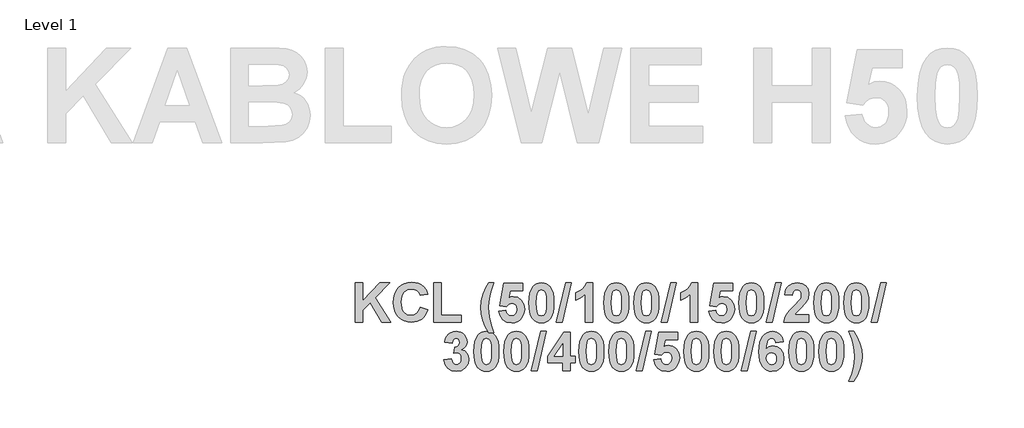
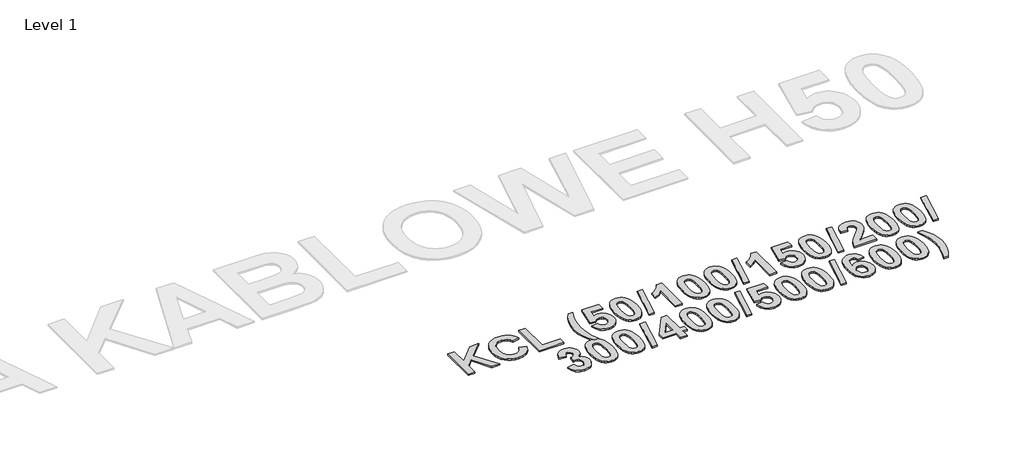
# One storey, part 23 of 42: 1 proxy.
"""IFC4 building model written with IfcOpenShell, lengths in millimetres."""

from ifc_helpers import new_model, si_unit, origin, origin_with_axes, place, context, project, spatial, polyline, outline, extrude, element, save

model = new_model("IFC4")

# Units and contexts
model_context = context("Model", 3, world=origin())
ifc_project = project(units=[si_unit("LENGTHUNIT", "METRE", prefix="MILLI")], contexts=[model_context])

# Site, building, storey
site = spatial("IfcSite", under=ifc_project)
building = spatial("IfcBuilding", under=site)
storey = spatial("IfcBuildingStorey", under=building, Name="Level 1", Elevation=0.0)

# Proxy
placement = place(None, origin())
element("IfcBuildingElementProxy", 1, Name="300mm Arial 2", ObjectType="300mm Arial 2", at=placement, inside=storey, context=model_context, shape_type="SweptSolid", body=[
    extrude(outline(polyline([(-22714.3228423, 21266.2760859), (-22714.3228423, 21521.3409359), (-22665.7390614, 21521.3409359), (-22665.7390614, 21405.0688143), (-22556.299034, 21521.3409359), (-22489.6228554, 21521.3409359), (-22586.157816, 21423.9203335), (-22485.574207, 21266.2760859), (-22542.381805, 21266.2760859), (-22617.7246216, 21391.9739671), (-22665.7390614, 21343.4534463), (-22665.7390614, 21266.2760859), (-22714.3228423, 21266.2760859)])), origin_with_axes(), (0.0, 0.0, 1.0), 10.0),
    extrude(outline(polyline([(-22293.2634074, 21363.4436478), (-22244.6796265, 21347.2490542), (-22260.0043933, 21311.4675423), (-22270.5253439, 21297.5325215), (-22282.952006, 21286.2346574), (-22313.3168691, 21271.2657288), (-22350.8933872, 21266.2760859), (-22375.2208615, 21268.4071616), (-22397.2788785, 21274.8003886), (-22417.0674384, 21285.455767), (-22434.5865411, 21300.3732968), (-22448.9228683, 21318.9875905), (-22459.1631021, 21340.7332606), (-22465.3072424, 21365.6103073), (-22467.3552891, 21393.6187305), (-22465.2894505, 21423.1533044), (-22459.0919345, 21449.192756), (-22448.7627411, 21471.7370854), (-22434.3018705, 21490.7862924), (-22416.4723978, 21505.9252326), (-22396.0373985, 21516.7387614), (-22372.9968725, 21523.2268786), (-22347.3508198, 21525.3895843), (-22324.9251032, 21523.6064394), (-22304.7134912, 21518.2570045), (-22286.7159838, 21509.3412797), (-22270.932581, 21496.8592651), (-22255.6078142, 21476.3471674), (-22244.6796265, 21448.4652645), (-22293.2634074, 21440.3679677), (-22300.7043804, 21457.1714401), (-22313.4117593, 21470.0053393), (-22330.4050121, 21478.1421737), (-22350.7036068, 21480.8544518), (-22378.1505963, 21475.9280691), (-22399.888359, 21461.1489208), (-22408.1497367, 21449.7719816), (-22414.0507209, 21435.3466947), (-22418.7715082, 21397.3510783), (-22414.1930562, 21357.275785), (-22408.4699912, 21342.2910414), (-22400.4577001, 21330.6748997), (-22379.3841689, 21315.7771388), (-22352.7911911, 21310.8112185), (-22332.7140069, 21313.9821326), (-22315.6258639, 21323.4948748), (-22302.2384386, 21339.8238963), (-22293.2634074, 21363.4436478)])), origin_with_axes(), (0.0, 0.0, 1.0), 10.0),
    extrude(outline(polyline([(-22204.1931423, 21266.2760859), (-22204.1931423, 21521.3409359), (-22155.6093614, 21521.3409359), (-22155.6093614, 21310.8112185), (-22026.0526122, 21310.8112185), (-22026.0526122, 21266.2760859), (-22204.1931423, 21266.2760859)])), origin_with_axes(), (0.0, 0.0, 1.0), 10.0),
    extrude(outline(polyline([(-21815.5228947, 21197.4490629), (-21847.912082, 21197.4490629), (-21870.5829316, 21237.1210729), (-21887.1017335, 21278.327141), (-21897.1838169, 21319.6280993), (-21900.5445114, 21359.5847798), (-21896.4326028, 21406.9824333), (-21884.0968772, 21451.7547913), (-21867.9022836, 21488.0344767), (-21847.912082, 21521.3409359), (-21815.5228947, 21521.3409359), (-21833.0854887, 21474.1014328), (-21844.1481042, 21434.4847754), (-21850.0075739, 21397.6041188), (-21851.9607304, 21358.5726177), (-21847.2794807, 21301.92317), (-21834.437674, 21246.8552256), (-21815.5228947, 21197.4490629)])), origin_with_axes(), (0.0, 0.0, 1.0), 10.0),
    extrude(outline(polyline([(-21783.1337074, 21338.0763351), (-21738.5985749, 21343.2004058), (-21734.4550363, 21328.1286795), (-21726.1995891, 21316.5678904), (-21715.0974361, 21309.2139001), (-21702.4137797, 21306.7625701), (-21688.2197877, 21309.364143), (-21676.3822356, 21317.1688617), (-21668.3877365, 21330.2083563), (-21665.7229035, 21348.5142568), (-21668.1979561, 21365.6735675), (-21675.623114, 21377.9302179), (-21687.0178452, 21385.2842082), (-21701.4016176, 21387.7355383), (-21720.2215067, 21382.6747278), (-21736.9538115, 21367.4922962), (-21779.085059, 21373.7550493), (-21750.7445201, 21517.2922875), (-21629.2850678, 21517.2922875), (-21629.2850678, 21468.7085066), (-21711.4599785, 21468.7085066), (-21721.2652989, 21422.3388302), (-21705.7823817, 21429.7877107), (-21689.9515338, 21432.2706708), (-21661.8324054, 21426.5219064), (-21638.3312665, 21409.2756131), (-21622.4371585, 21382.8566007), (-21617.1391225, 21349.589679), (-21621.5515167, 21320.6639839), (-21634.7886992, 21294.9961856), (-21648.0061129, 21280.6598583), (-21663.556244, 21270.4196245), (-21681.4390924, 21264.2754843), (-21701.6546581, 21262.2274375), (-21732.6600301, 21267.3673232), (-21757.3552039, 21282.7869802), (-21774.5698671, 21306.8890903), (-21783.1337074, 21338.0763351)])), origin_with_axes(), (0.0, 0.0, 1.0), 10.0),
    extrude(outline(polyline([(-21507.8256154, 21521.3409359), (-21490.693981, 21519.6961725), (-21475.5471333, 21514.7618822), (-21462.3850722, 21506.5380652), (-21451.2077977, 21495.0247212), (-21440.5524193, 21476.8967398), (-21432.9414348, 21453.6367802), (-21428.374844, 21425.2448425), (-21426.8526471, 21391.7209266), (-21428.3827516, 21358.2286407), (-21432.9730648, 21329.8050729), (-21440.623587, 21306.4502232), (-21451.334318, 21288.1640914), (-21462.4562399, 21276.8168053), (-21475.5787634, 21268.711601), (-21490.7018885, 21263.8484784), (-21507.8256154, 21262.2274375), (-21525.133192, 21264.0066287), (-21540.6813461, 21269.3442023), (-21554.4700779, 21278.2401583), (-21566.4993873, 21290.6944967), (-21576.2552857, 21307.7154258), (-21583.2237845, 21330.311154), (-21587.4048839, 21358.4816813), (-21588.7985836, 21392.2270076), (-21587.2684792, 21425.5532356), (-21582.6781659, 21453.8581907), (-21575.0276438, 21477.1418728), (-21564.3169128, 21495.404282), (-21553.1949909, 21506.7515681), (-21540.0724674, 21514.8567724), (-21524.9493422, 21519.7198951), (-21507.8256154, 21521.3409359)]), holes=[polyline([(-21507.8256154, 21476.8058034), (-21524.020209, 21471.4603223), (-21530.3462222, 21463.9877192), (-21535.0274719, 21452.2608724), (-21538.91797, 21428.1113172), (-21540.2148027, 21391.7209266), (-21539.0603053, 21355.8128945), (-21535.5968131, 21333.2369351), (-21530.3699447, 21319.9839375), (-21523.9253188, 21312.044791), (-21507.8256154, 21306.7625701), (-21491.6310217, 21312.1080512), (-21485.3050086, 21319.5806542), (-21480.6237589, 21331.3075011), (-21476.7332608, 21355.330536), (-21475.4364281, 21391.7209266), (-21476.5909255, 21427.5894211), (-21480.0544177, 21450.173288), (-21485.281286, 21463.4658232), (-21491.7259119, 21471.4603223), (-21507.8256154, 21476.8058034)])]), origin_with_axes(), (0.0, 0.0, 1.0), 10.0),
    extrude(outline(polyline([(-21411.5436953, 21266.2760859), (-21350.8139691, 21521.3409359), (-21313.4904916, 21521.3409359), (-21374.2202178, 21266.2760859), (-21411.5436953, 21266.2760859)])), origin_with_axes(), (0.0, 0.0, 1.0), 10.0),
    extrude(outline(polyline([(-21175.8364455, 21266.2760859), (-21224.4202265, 21266.2760859), (-21224.4202265, 21448.5917848), (-21252.4760948, 21424.7110851), (-21285.1499527, 21407.9787804), (-21285.1499527, 21456.5625613), (-21265.6816472, 21465.6482977), (-21244.6002084, 21480.3800008), (-21226.1440651, 21499.3975778), (-21214.551646, 21521.3409359), (-21175.8364455, 21521.3409359), (-21175.8364455, 21266.2760859)])), origin_with_axes(), (0.0, 0.0, 1.0), 10.0),
    extrude(outline(polyline([(-21021.9878059, 21521.3409359), (-21004.8561715, 21519.6961725), (-20989.7093238, 21514.7618822), (-20976.5472627, 21506.5380652), (-20965.3699882, 21495.0247212), (-20954.7146098, 21476.8967398), (-20947.1036253, 21453.6367802), (-20942.5370345, 21425.2448425), (-20941.0148376, 21391.7209266), (-20942.5449421, 21358.2286407), (-20947.1352553, 21329.8050729), (-20954.7857775, 21306.4502232), (-20965.4965085, 21288.1640914), (-20976.6184304, 21276.8168053), (-20989.7409539, 21268.711601), (-21004.864079, 21263.8484784), (-21021.9878059, 21262.2274375), (-21039.2953825, 21264.0066287), (-21054.8435366, 21269.3442023), (-21068.6322684, 21278.2401583), (-21080.6615778, 21290.6944967), (-21090.4174762, 21307.7154258), (-21097.385975, 21330.311154), (-21101.5670744, 21358.4816813), (-21102.9607741, 21392.2270076), (-21101.4306697, 21425.5532356), (-21096.8403564, 21453.8581907), (-21089.1898343, 21477.1418728), (-21078.4791033, 21495.404282), (-21067.3571814, 21506.7515681), (-21054.2346579, 21514.8567724), (-21039.1115327, 21519.7198951), (-21021.9878059, 21521.3409359)]), holes=[polyline([(-21021.9878059, 21476.8058034), (-21038.1823995, 21471.4603223), (-21044.5084127, 21463.9877192), (-21049.1896624, 21452.2608724), (-21053.0801605, 21428.1113172), (-21054.3769932, 21391.7209266), (-21053.2224958, 21355.8128945), (-21049.7590036, 21333.2369351), (-21044.5321352, 21319.9839375), (-21038.0875093, 21312.044791), (-21021.9878059, 21306.7625701), (-21005.7932122, 21312.1080512), (-20999.4671991, 21319.5806542), (-20994.7859494, 21331.3075011), (-20990.8954513, 21355.330536), (-20989.5986186, 21391.7209266), (-20990.753116, 21427.5894211), (-20994.2166082, 21450.173288), (-20999.4434765, 21463.4658232), (-21005.8881024, 21471.4603223), (-21021.9878059, 21476.8058034)])]), origin_with_axes(), (0.0, 0.0, 1.0), 10.0),
    extrude(outline(polyline([(-20827.6526821, 21521.3409359), (-20810.5210477, 21519.6961725), (-20795.3742, 21514.7618822), (-20782.2121389, 21506.5380652), (-20771.0348644, 21495.0247212), (-20760.379486, 21476.8967398), (-20752.7685015, 21453.6367802), (-20748.2019107, 21425.2448425), (-20746.6797138, 21391.7209266), (-20748.2098182, 21358.2286407), (-20752.8001315, 21329.8050729), (-20760.4506537, 21306.4502232), (-20771.1613847, 21288.1640914), (-20782.2833065, 21276.8168053), (-20795.4058301, 21268.711601), (-20810.5289552, 21263.8484784), (-20827.6526821, 21262.2274375), (-20844.9602587, 21264.0066287), (-20860.5084128, 21269.3442023), (-20874.2971446, 21278.2401583), (-20886.326454, 21290.6944967), (-20896.0823524, 21307.7154258), (-20903.0508512, 21330.311154), (-20907.2319506, 21358.4816813), (-20908.6256503, 21392.2270076), (-20907.0955459, 21425.5532356), (-20902.5052326, 21453.8581907), (-20894.8547105, 21477.1418728), (-20884.1439795, 21495.404282), (-20873.0220576, 21506.7515681), (-20859.8995341, 21514.8567724), (-20844.7764089, 21519.7198951), (-20827.6526821, 21521.3409359)]), holes=[polyline([(-20827.6526821, 21476.8058034), (-20843.8472757, 21471.4603223), (-20850.1732889, 21463.9877192), (-20854.8545386, 21452.2608724), (-20858.7450367, 21428.1113172), (-20860.0418694, 21391.7209266), (-20858.887372, 21355.8128945), (-20855.4238798, 21333.2369351), (-20850.1970114, 21319.9839375), (-20843.7523855, 21312.044791), (-20827.6526821, 21306.7625701), (-20811.4580884, 21312.1080512), (-20805.1320753, 21319.5806542), (-20800.4508255, 21331.3075011), (-20796.5603275, 21355.330536), (-20795.2634948, 21391.7209266), (-20796.4179922, 21427.5894211), (-20799.8814844, 21450.173288), (-20805.1083527, 21463.4658232), (-20811.5529786, 21471.4603223), (-20827.6526821, 21476.8058034)])]), origin_with_axes(), (0.0, 0.0, 1.0), 10.0),
    extrude(outline(polyline([(-20731.370762, 21266.2760859), (-20670.6410358, 21521.3409359), (-20633.3175583, 21521.3409359), (-20694.0472845, 21266.2760859), (-20731.370762, 21266.2760859)])), origin_with_axes(), (0.0, 0.0, 1.0), 10.0),
    extrude(outline(polyline([(-20495.6635122, 21266.2760859), (-20544.2472932, 21266.2760859), (-20544.2472932, 21448.5917848), (-20572.3031615, 21424.7110851), (-20604.9770194, 21407.9787804), (-20604.9770194, 21456.5625613), (-20585.5087139, 21465.6482977), (-20564.4272751, 21480.3800008), (-20545.9711318, 21499.3975778), (-20534.3787127, 21521.3409359), (-20495.6635122, 21521.3409359), (-20495.6635122, 21266.2760859)])), origin_with_axes(), (0.0, 0.0, 1.0), 10.0),
    extrude(outline(polyline([(-20422.7878408, 21338.0763351), (-20378.2527083, 21343.2004058), (-20374.1091697, 21328.1286795), (-20365.8537225, 21316.5678904), (-20354.7515694, 21309.2139001), (-20342.0679131, 21306.7625701), (-20327.8739211, 21309.364143), (-20316.036369, 21317.1688617), (-20308.0418699, 21330.2083563), (-20305.3770369, 21348.5142568), (-20307.8520895, 21365.6735675), (-20315.2772474, 21377.9302179), (-20326.6719786, 21385.2842082), (-20341.055751, 21387.7355383), (-20359.8756401, 21382.6747278), (-20376.6079449, 21367.4922962), (-20418.7391924, 21373.7550493), (-20390.3986535, 21517.2922875), (-20268.9392011, 21517.2922875), (-20268.9392011, 21468.7085066), (-20351.1141119, 21468.7085066), (-20360.9194323, 21422.3388302), (-20345.4365151, 21429.7877107), (-20329.6056672, 21432.2706708), (-20301.4865388, 21426.5219064), (-20277.9853999, 21409.2756131), (-20262.0912919, 21382.8566007), (-20256.7932559, 21349.589679), (-20261.2056501, 21320.6639839), (-20274.4428326, 21294.9961856), (-20287.6602463, 21280.6598583), (-20303.2103774, 21270.4196245), (-20321.0932258, 21264.2754843), (-20341.3087915, 21262.2274375), (-20372.3141634, 21267.3673232), (-20397.0093373, 21282.7869802), (-20414.2240005, 21306.8890903), (-20422.7878408, 21338.0763351)])), origin_with_axes(), (0.0, 0.0, 1.0), 10.0),
    extrude(outline(polyline([(-20147.4797488, 21521.3409359), (-20130.3481144, 21519.6961725), (-20115.2012667, 21514.7618822), (-20102.0392056, 21506.5380652), (-20090.8619311, 21495.0247212), (-20080.2065527, 21476.8967398), (-20072.5955682, 21453.6367802), (-20068.0289774, 21425.2448425), (-20066.5067805, 21391.7209266), (-20068.0368849, 21358.2286407), (-20072.6271982, 21329.8050729), (-20080.2777204, 21306.4502232), (-20090.9884514, 21288.1640914), (-20102.1103732, 21276.8168053), (-20115.2328968, 21268.711601), (-20130.3560219, 21263.8484784), (-20147.4797488, 21262.2274375), (-20164.7873254, 21264.0066287), (-20180.3354795, 21269.3442023), (-20194.1242113, 21278.2401583), (-20206.1535207, 21290.6944967), (-20215.9094191, 21307.7154258), (-20222.8779179, 21330.311154), (-20227.0590172, 21358.4816813), (-20228.452717, 21392.2270076), (-20226.9226126, 21425.5532356), (-20222.3322993, 21453.8581907), (-20214.6817772, 21477.1418728), (-20203.9710461, 21495.404282), (-20192.8491243, 21506.7515681), (-20179.7266008, 21514.8567724), (-20164.6034756, 21519.7198951), (-20147.4797488, 21521.3409359)]), holes=[polyline([(-20147.4797488, 21476.8058034), (-20163.6743424, 21471.4603223), (-20170.0003556, 21463.9877192), (-20174.6816053, 21452.2608724), (-20178.5721034, 21428.1113172), (-20179.8689361, 21391.7209266), (-20178.7144387, 21355.8128945), (-20175.2509465, 21333.2369351), (-20170.0240781, 21319.9839375), (-20163.5794522, 21312.044791), (-20147.4797488, 21306.7625701), (-20131.2851551, 21312.1080512), (-20124.959142, 21319.5806542), (-20120.2778922, 21331.3075011), (-20116.3873942, 21355.330536), (-20115.0905615, 21391.7209266), (-20116.2450589, 21427.5894211), (-20119.7085511, 21450.173288), (-20124.9354194, 21463.4658232), (-20131.3800453, 21471.4603223), (-20147.4797488, 21476.8058034)])]), origin_with_axes(), (0.0, 0.0, 1.0), 10.0),
    extrude(outline(polyline([(-20051.1978287, 21266.2760859), (-19990.4681025, 21521.3409359), (-19953.144625, 21521.3409359), (-20013.8743512, 21266.2760859), (-20051.1978287, 21266.2760859)])), origin_with_axes(), (0.0, 0.0, 1.0), 10.0),
    extrude(outline(polyline([(-19775.0040948, 21314.8598669), (-19775.0040948, 21266.2760859), (-19936.9500313, 21266.2760859), (-19931.7785156, 21290.7814793), (-19921.4512991, 21313.942595), (-19902.2676642, 21340.1243819), (-19870.5268933, 21373.6917891), (-19832.9503752, 21414.4313138), (-19825.9285006, 21429.1392943), (-19823.5878758, 21443.6574945), (-19825.5568474, 21457.8040414), (-19831.4637621, 21468.2340556), (-19840.8341691, 21474.6628664), (-19853.1936173, 21476.8058034), (-19865.4660828, 21474.6944965), (-19874.9551025, 21468.3605758), (-19881.3443758, 21457.13981), (-19884.317602, 21440.3679677), (-19932.9013829, 21444.7961769), (-19924.298005, 21479.9450874), (-19916.6751592, 21493.1842468), (-19906.8382087, 21503.5332089), (-19882.2142026, 21516.8890042), (-19852.118195, 21521.3409359), (-19819.9820483, 21516.3512931), (-19795.5636375, 21501.3823644), (-19780.1439805, 21478.9961854), (-19775.0040948, 21451.7547913), (-19780.6342465, 21419.6186446), (-19798.4736036, 21387.6722782), (-19828.6803163, 21355.7891719), (-19856.419884, 21328.1444945), (-19865.5293429, 21314.8598669), (-19775.0040948, 21314.8598669)])), origin_with_axes(), (0.0, 0.0, 1.0), 10.0),
    extrude(outline(polyline([(-19661.6419393, 21521.3409359), (-19644.5103049, 21519.6961725), (-19629.3634572, 21514.7618822), (-19616.2013961, 21506.5380652), (-19605.0241216, 21495.0247212), (-19594.3687432, 21476.8967398), (-19586.7577587, 21453.6367802), (-19582.1911679, 21425.2448425), (-19580.668971, 21391.7209266), (-19582.1990754, 21358.2286407), (-19586.7893887, 21329.8050729), (-19594.4399109, 21306.4502232), (-19605.1506419, 21288.1640914), (-19616.2725637, 21276.8168053), (-19629.3950873, 21268.711601), (-19644.5182124, 21263.8484784), (-19661.6419393, 21262.2274375), (-19678.9495159, 21264.0066287), (-19694.49767, 21269.3442023), (-19708.2864018, 21278.2401583), (-19720.3157112, 21290.6944967), (-19730.0716096, 21307.7154258), (-19737.0401084, 21330.311154), (-19741.2212077, 21358.4816813), (-19742.6149075, 21392.2270076), (-19741.0848031, 21425.5532356), (-19736.4944898, 21453.8581907), (-19728.8439676, 21477.1418728), (-19718.1332366, 21495.404282), (-19707.0113148, 21506.7515681), (-19693.8887913, 21514.8567724), (-19678.7656661, 21519.7198951), (-19661.6419393, 21521.3409359)]), holes=[polyline([(-19661.6419393, 21476.8058034), (-19677.8365329, 21471.4603223), (-19684.1625461, 21463.9877192), (-19688.8437958, 21452.2608724), (-19692.7342939, 21428.1113172), (-19694.0311266, 21391.7209266), (-19692.8766292, 21355.8128945), (-19689.413137, 21333.2369351), (-19684.1862686, 21319.9839375), (-19677.7416427, 21312.044791), (-19661.6419393, 21306.7625701), (-19645.4473456, 21312.1080512), (-19639.1213325, 21319.5806542), (-19634.4400827, 21331.3075011), (-19630.5495847, 21355.330536), (-19629.252752, 21391.7209266), (-19630.4072494, 21427.5894211), (-19633.8707416, 21450.173288), (-19639.0976099, 21463.4658232), (-19645.5422358, 21471.4603223), (-19661.6419393, 21476.8058034)])]), origin_with_axes(), (0.0, 0.0, 1.0), 10.0),
    extrude(outline(polyline([(-19467.3068155, 21521.3409359), (-19450.1751811, 21519.6961725), (-19435.0283334, 21514.7618822), (-19421.8662723, 21506.5380652), (-19410.6889978, 21495.0247212), (-19400.0336194, 21476.8967398), (-19392.4226349, 21453.6367802), (-19387.8560441, 21425.2448425), (-19386.3338472, 21391.7209266), (-19387.8639516, 21358.2286407), (-19392.4542649, 21329.8050729), (-19400.1047871, 21306.4502232), (-19410.8155181, 21288.1640914), (-19421.9374399, 21276.8168053), (-19435.0599635, 21268.711601), (-19450.1830886, 21263.8484784), (-19467.3068155, 21262.2274375), (-19484.614392, 21264.0066287), (-19500.1625462, 21269.3442023), (-19513.951278, 21278.2401583), (-19525.9805874, 21290.6944967), (-19535.7364858, 21307.7154258), (-19542.7049846, 21330.311154), (-19546.8860839, 21358.4816813), (-19548.2797837, 21392.2270076), (-19546.7496793, 21425.5532356), (-19542.159366, 21453.8581907), (-19534.5088438, 21477.1418728), (-19523.7981128, 21495.404282), (-19512.676191, 21506.7515681), (-19499.5536675, 21514.8567724), (-19484.4305423, 21519.7198951), (-19467.3068155, 21521.3409359)]), holes=[polyline([(-19467.3068155, 21476.8058034), (-19483.5014091, 21471.4603223), (-19489.8274223, 21463.9877192), (-19494.508672, 21452.2608724), (-19498.3991701, 21428.1113172), (-19499.6960028, 21391.7209266), (-19498.5415054, 21355.8128945), (-19495.0780132, 21333.2369351), (-19489.8511448, 21319.9839375), (-19483.4065189, 21312.044791), (-19467.3068155, 21306.7625701), (-19451.1122218, 21312.1080512), (-19444.7862087, 21319.5806542), (-19440.1049589, 21331.3075011), (-19436.2144609, 21355.330536), (-19434.9176282, 21391.7209266), (-19436.0721256, 21427.5894211), (-19439.5356178, 21450.173288), (-19444.7624861, 21463.4658232), (-19451.207112, 21471.4603223), (-19467.3068155, 21476.8058034)])]), origin_with_axes(), (0.0, 0.0, 1.0), 10.0),
    extrude(outline(polyline([(-19371.0248954, 21266.2760859), (-19310.2951692, 21521.3409359), (-19272.9716917, 21521.3409359), (-19333.7014178, 21266.2760859), (-19371.0248954, 21266.2760859)])), origin_with_axes(), (0.0, 0.0, 1.0), 10.0),
    extrude(outline(polyline([(-22139.4147677, 21022.7918795), (-22090.8309868, 21028.4220312), (-22087.082824, 21012.7967787), (-22079.886984, 21001.3466949), (-22070.0342186, 20994.3248203), (-22058.3152792, 20991.9841955), (-22045.7423281, 20994.6648435), (-22035.3518515, 21002.7067877), (-22028.377422, 21015.2876464), (-22026.0526122, 21031.5850377), (-22028.1797341, 21047.0046948), (-22034.5610999, 21058.8501544), (-22044.010582, 21066.3939251), (-22055.342053, 21068.9085153), (-22074.6363931, 21065.3026878), (-22070.3979643, 21105.346351), (-22056.5677181, 21107.0860046), (-22046.4540046, 21113.3171276), (-22040.2624192, 21123.1857081), (-22038.1985574, 21135.8377344), (-22039.7405231, 21146.5840492), (-22044.3664202, 21154.910664), (-22051.5543527, 21160.2482376), (-22060.7824243, 21162.0274288), (-22070.1686463, 21159.963567), (-22078.0840703, 21153.7719816), (-22083.8486498, 21143.610823), (-22086.7823384, 21129.6382415), (-22135.3661193, 21136.9131566), (-22129.8071353, 21158.6509193), (-22121.9866015, 21175.5334668), (-22111.2640092, 21188.4464412), (-22096.9988496, 21198.2754841), (-22080.0055968, 21204.490792), (-22061.098725, 21206.5625613), (-22030.4491913, 21200.8217044), (-22017.6627372, 21193.6456332), (-22006.5684917, 21183.5991336), (-21993.8532053, 21163.577302), (-21989.6147765, 21141.0883253), (-21991.8881874, 21125.1428184), (-21998.7084204, 21110.8974275), (-22010.0754752, 21098.3521527), (-22025.989352, 21087.5069939), (-22006.1256708, 21079.9553157), (-21990.6901987, 21066.6627806), (-21980.7741731, 21048.799701), (-21977.4688312, 21027.5363893), (-21983.3283009, 20996.7682429), (-22000.9067099, 20970.8869416), (-22013.3432564, 20960.6328697), (-22027.2150171, 20953.3085326), (-22059.2641812, 20947.4490629), (-22089.5262466, 20952.6601162), (-22114.1423452, 20968.2932762), (-22131.3570085, 20992.3400337), (-22139.4147677, 21022.7918795)])), origin_with_axes(), (0.0, 0.0, 1.0), 10.0),
    extrude(outline(polyline([(-21864.1066757, 21206.5625613), (-21846.9750413, 21204.9177979), (-21831.8281936, 21199.9835076), (-21818.6661325, 21191.7596906), (-21807.488858, 21180.2463466), (-21796.8334796, 21162.1183652), (-21789.2224951, 21138.8584056), (-21784.6559043, 21110.4664679), (-21783.1337074, 21076.942552), (-21784.6638119, 21043.4502661), (-21789.2541251, 21015.0266983), (-21796.9046473, 20991.6718486), (-21807.6153783, 20973.3857168), (-21818.7373002, 20962.0384307), (-21831.8598237, 20953.9332264), (-21846.9829488, 20949.0701038), (-21864.1066757, 20947.4490629), (-21881.4142523, 20949.2282541), (-21896.9624064, 20954.5658277), (-21910.7511382, 20963.4617837), (-21922.7804476, 20975.9161221), (-21932.536346, 20992.9370512), (-21939.5048448, 21015.5327794), (-21943.6859442, 21043.7033067), (-21945.0796439, 21077.448633), (-21943.5495395, 21110.774861), (-21938.9592262, 21139.0798161), (-21931.3087041, 21162.3634982), (-21920.5979731, 21180.6259074), (-21909.4760512, 21191.9731935), (-21896.3535277, 21200.0783978), (-21881.2304025, 21204.9415205), (-21864.1066757, 21206.5625613)]), holes=[polyline([(-21864.1066757, 21162.0274288), (-21880.3012693, 21156.6819477), (-21886.6272825, 21149.2093446), (-21891.3085322, 21137.4824978), (-21895.1990303, 21113.3329426), (-21896.495863, 21076.942552), (-21895.3413656, 21041.0345199), (-21891.8778734, 21018.4585605), (-21886.651005, 21005.2055629), (-21880.2063791, 20997.2664164), (-21864.1066757, 20991.9841955), (-21847.912082, 20997.3296766), (-21841.5860689, 21004.8022796), (-21836.9048192, 21016.5291265), (-21833.0143211, 21040.5521614), (-21831.7174884, 21076.942552), (-21832.8719858, 21112.8110465), (-21836.335478, 21135.3949134), (-21841.5623463, 21148.6874486), (-21848.0069722, 21156.6819477), (-21864.1066757, 21162.0274288)])]), origin_with_axes(), (0.0, 0.0, 1.0), 10.0),
    extrude(outline(polyline([(-21669.7715519, 21206.5625613), (-21652.6399175, 21204.9177979), (-21637.4930698, 21199.9835076), (-21624.3310087, 21191.7596906), (-21613.1537342, 21180.2463466), (-21602.4983558, 21162.1183652), (-21594.8873713, 21138.8584056), (-21590.3207805, 21110.4664679), (-21588.7985836, 21076.942552), (-21590.3286881, 21043.4502661), (-21594.9190013, 21015.0266983), (-21602.5695235, 20991.6718486), (-21613.2802545, 20973.3857168), (-21624.4021764, 20962.0384307), (-21637.5246999, 20953.9332264), (-21652.647825, 20949.0701038), (-21669.7715519, 20947.4490629), (-21687.0791285, 20949.2282541), (-21702.6272826, 20954.5658277), (-21716.4160144, 20963.4617837), (-21728.4453238, 20975.9161221), (-21738.2012222, 20992.9370512), (-21745.169721, 21015.5327794), (-21749.3508204, 21043.7033067), (-21750.7445201, 21077.448633), (-21749.2144157, 21110.774861), (-21744.6241024, 21139.0798161), (-21736.9735803, 21162.3634982), (-21726.2628493, 21180.6259074), (-21715.1409274, 21191.9731935), (-21702.0184039, 21200.0783978), (-21686.8952787, 21204.9415205), (-21669.7715519, 21206.5625613)]), holes=[polyline([(-21669.7715519, 21162.0274288), (-21685.9661455, 21156.6819477), (-21692.2921587, 21149.2093446), (-21696.9734084, 21137.4824978), (-21700.8639065, 21113.3329426), (-21702.1607392, 21076.942552), (-21701.0062418, 21041.0345199), (-21697.5427496, 21018.4585605), (-21692.3158812, 21005.2055629), (-21685.8712553, 20997.2664164), (-21669.7715519, 20991.9841955), (-21653.5769582, 20997.3296766), (-21647.2509451, 21004.8022796), (-21642.5696954, 21016.5291265), (-21638.6791973, 21040.5521614), (-21637.3823646, 21076.942552), (-21638.536862, 21112.8110465), (-21642.0003542, 21135.3949134), (-21647.2272225, 21148.6874486), (-21653.6718484, 21156.6819477), (-21669.7715519, 21162.0274288)])]), origin_with_axes(), (0.0, 0.0, 1.0), 10.0),
    extrude(outline(polyline([(-21573.4896318, 20951.4977113), (-21512.7599056, 21206.5625613), (-21475.4364281, 21206.5625613), (-21536.1661543, 20951.4977113), (-21573.4896318, 20951.4977113)])), origin_with_axes(), (0.0, 0.0, 1.0), 10.0),
    extrude(outline(polyline([(-21370.1715693, 20951.4977113), (-21370.1715693, 21004.1301407), (-21467.3391313, 21004.1301407), (-21467.3391313, 21044.4268444), (-21363.7190359, 21202.5139129), (-21321.5877884, 21202.5139129), (-21321.5877884, 21044.6166248), (-21289.1986011, 21044.6166248), (-21289.1986011, 21004.1301407), (-21321.5877884, 21004.1301407), (-21321.5877884, 20951.4977113), (-21370.1715693, 20951.4977113)]), holes=[polyline([(-21370.1715693, 21044.6166248), (-21370.1715693, 21127.487397), (-21424.4487621, 21044.6166248), (-21370.1715693, 21044.6166248)])]), origin_with_axes(), (0.0, 0.0, 1.0), 10.0),
    extrude(outline(polyline([(-21183.9337424, 21206.5625613), (-21166.802108, 21204.9177979), (-21151.6552603, 21199.9835076), (-21138.4931992, 21191.7596906), (-21127.3159247, 21180.2463466), (-21116.6605463, 21162.1183652), (-21109.0495618, 21138.8584056), (-21104.482971, 21110.4664679), (-21102.9607741, 21076.942552), (-21104.4908786, 21043.4502661), (-21109.0811918, 21015.0266983), (-21116.731714, 20991.6718486), (-21127.442445, 20973.3857168), (-21138.5643669, 20962.0384307), (-21151.6868904, 20953.9332264), (-21166.8100155, 20949.0701038), (-21183.9337424, 20947.4490629), (-21201.241319, 20949.2282541), (-21216.7894731, 20954.5658277), (-21230.5782049, 20963.4617837), (-21242.6075143, 20975.9161221), (-21252.3634127, 20992.9370512), (-21259.3319115, 21015.5327794), (-21263.5130109, 21043.7033067), (-21264.9067106, 21077.448633), (-21263.3766062, 21110.774861), (-21258.7862929, 21139.0798161), (-21251.1357708, 21162.3634982), (-21240.4250398, 21180.6259074), (-21229.3031179, 21191.9731935), (-21216.1805944, 21200.0783978), (-21201.0574692, 21204.9415205), (-21183.9337424, 21206.5625613)]), holes=[polyline([(-21183.9337424, 21162.0274288), (-21200.128336, 21156.6819477), (-21206.4543492, 21149.2093446), (-21211.1355989, 21137.4824978), (-21215.026097, 21113.3329426), (-21216.3229297, 21076.942552), (-21215.1684323, 21041.0345199), (-21211.7049401, 21018.4585605), (-21206.4780717, 21005.2055629), (-21200.0334458, 20997.2664164), (-21183.9337424, 20991.9841955), (-21167.7391487, 20997.3296766), (-21161.4131356, 21004.8022796), (-21156.7318859, 21016.5291265), (-21152.8413878, 21040.5521614), (-21151.5445551, 21076.942552), (-21152.6990525, 21112.8110465), (-21156.1625447, 21135.3949134), (-21161.389413, 21148.6874486), (-21167.8340389, 21156.6819477), (-21183.9337424, 21162.0274288)])]), origin_with_axes(), (0.0, 0.0, 1.0), 10.0),
    extrude(outline(polyline([(-20989.5986186, 21206.5625613), (-20972.4669842, 21204.9177979), (-20957.3201365, 21199.9835076), (-20944.1580754, 21191.7596906), (-20932.9808009, 21180.2463466), (-20922.3254225, 21162.1183652), (-20914.714438, 21138.8584056), (-20910.1478472, 21110.4664679), (-20908.6256503, 21076.942552), (-20910.1557548, 21043.4502661), (-20914.746068, 21015.0266983), (-20922.3965902, 20991.6718486), (-20933.1073212, 20973.3857168), (-20944.2292431, 20962.0384307), (-20957.3517666, 20953.9332264), (-20972.4748917, 20949.0701038), (-20989.5986186, 20947.4490629), (-21006.9061952, 20949.2282541), (-21022.4543493, 20954.5658277), (-21036.2430811, 20963.4617837), (-21048.2723905, 20975.9161221), (-21058.0282889, 20992.9370512), (-21064.9967877, 21015.5327794), (-21069.1778871, 21043.7033067), (-21070.5715868, 21077.448633), (-21069.0414824, 21110.774861), (-21064.4511691, 21139.0798161), (-21056.800647, 21162.3634982), (-21046.089916, 21180.6259074), (-21034.9679941, 21191.9731935), (-21021.8454706, 21200.0783978), (-21006.7223454, 21204.9415205), (-20989.5986186, 21206.5625613)]), holes=[polyline([(-20989.5986186, 21162.0274288), (-21005.7932122, 21156.6819477), (-21012.1192254, 21149.2093446), (-21016.8004751, 21137.4824978), (-21020.6909732, 21113.3329426), (-21021.9878059, 21076.942552), (-21020.8333085, 21041.0345199), (-21017.3698163, 21018.4585605), (-21012.1429479, 21005.2055629), (-21005.698322, 20997.2664164), (-20989.5986186, 20991.9841955), (-20973.4040249, 20997.3296766), (-20967.0780118, 21004.8022796), (-20962.3967621, 21016.5291265), (-20958.506264, 21040.5521614), (-20957.2094313, 21076.942552), (-20958.3639287, 21112.8110465), (-20961.8274209, 21135.3949134), (-20967.0542892, 21148.6874486), (-20973.4989151, 21156.6819477), (-20989.5986186, 21162.0274288)])]), origin_with_axes(), (0.0, 0.0, 1.0), 10.0),
    extrude(outline(polyline([(-20893.3166985, 20951.4977113), (-20832.5869723, 21206.5625613), (-20795.2634948, 21206.5625613), (-20855.993221, 20951.4977113), (-20893.3166985, 20951.4977113)])), origin_with_axes(), (0.0, 0.0, 1.0), 10.0),
    extrude(outline(polyline([(-20779.0689011, 21023.2979605), (-20734.5337686, 21028.4220312), (-20730.39023, 21013.3503049), (-20722.1347828, 21001.7895158), (-20711.0326298, 20994.4355255), (-20698.3489734, 20991.9841955), (-20684.1549814, 20994.5857684), (-20672.3174293, 21002.3904871), (-20664.3229302, 21015.4299817), (-20661.6580972, 21033.7358822), (-20664.1331498, 21050.8951929), (-20671.5583077, 21063.1518433), (-20682.9530389, 21070.5058336), (-20697.3368113, 21072.9571637), (-20716.1567004, 21067.8963532), (-20732.8890052, 21052.7139216), (-20775.0202527, 21058.9766747), (-20746.6797138, 21202.5139129), (-20625.2202614, 21202.5139129), (-20625.2202614, 21153.930132), (-20707.3951722, 21153.930132), (-20717.2004926, 21107.5604556), (-20701.7175754, 21115.0093361), (-20685.8867275, 21117.4922962), (-20657.7675991, 21111.7435318), (-20634.2664602, 21094.4972385), (-20618.3723522, 21068.0782261), (-20613.0743162, 21034.8113044), (-20617.4867104, 21005.8856093), (-20630.7238929, 20980.217811), (-20643.9413066, 20965.8814837), (-20659.4914377, 20955.6412499), (-20677.3742861, 20949.4971097), (-20697.5898518, 20947.4490629), (-20728.5952237, 20952.5889486), (-20753.2903976, 20968.0086056), (-20770.5050608, 20992.1107157), (-20779.0689011, 21023.2979605)])), origin_with_axes(), (0.0, 0.0, 1.0), 10.0),
    extrude(outline(polyline([(-20503.7608091, 21206.5625613), (-20486.6291747, 21204.9177979), (-20471.482327, 21199.9835076), (-20458.3202659, 21191.7596906), (-20447.1429914, 21180.2463466), (-20436.487613, 21162.1183652), (-20428.8766285, 21138.8584056), (-20424.3100377, 21110.4664679), (-20422.7878408, 21076.942552), (-20424.3179452, 21043.4502661), (-20428.9082585, 21015.0266983), (-20436.5587807, 20991.6718486), (-20447.2695117, 20973.3857168), (-20458.3914335, 20962.0384307), (-20471.5139571, 20953.9332264), (-20486.6370822, 20949.0701038), (-20503.7608091, 20947.4490629), (-20521.0683857, 20949.2282541), (-20536.6165398, 20954.5658277), (-20550.4052716, 20963.4617837), (-20562.434581, 20975.9161221), (-20572.1904794, 20992.9370512), (-20579.1589782, 21015.5327794), (-20583.3400775, 21043.7033067), (-20584.7337773, 21077.448633), (-20583.2036729, 21110.774861), (-20578.6133596, 21139.0798161), (-20570.9628375, 21162.3634982), (-20560.2521064, 21180.6259074), (-20549.1301846, 21191.9731935), (-20536.0076611, 21200.0783978), (-20520.8845359, 21204.9415205), (-20503.7608091, 21206.5625613)]), holes=[polyline([(-20503.7608091, 21162.0274288), (-20519.9554027, 21156.6819477), (-20526.2814159, 21149.2093446), (-20530.9626656, 21137.4824978), (-20534.8531637, 21113.3329426), (-20536.1499964, 21076.942552), (-20534.995499, 21041.0345199), (-20531.5320068, 21018.4585605), (-20526.3051384, 21005.2055629), (-20519.8605125, 20997.2664164), (-20503.7608091, 20991.9841955), (-20487.5662154, 20997.3296766), (-20481.2402023, 21004.8022796), (-20476.5589525, 21016.5291265), (-20472.6684545, 21040.5521614), (-20471.3716218, 21076.942552), (-20472.5261192, 21112.8110465), (-20475.9896114, 21135.3949134), (-20481.2164797, 21148.6874486), (-20487.6611056, 21156.6819477), (-20503.7608091, 21162.0274288)])]), origin_with_axes(), (0.0, 0.0, 1.0), 10.0),
    extrude(outline(polyline([(-20309.4256853, 21206.5625613), (-20292.2940509, 21204.9177979), (-20277.1472032, 21199.9835076), (-20263.9851421, 21191.7596906), (-20252.8078676, 21180.2463466), (-20242.1524892, 21162.1183652), (-20234.5415047, 21138.8584056), (-20229.9749139, 21110.4664679), (-20228.452717, 21076.942552), (-20229.9828214, 21043.4502661), (-20234.5731347, 21015.0266983), (-20242.2236569, 20991.6718486), (-20252.9343879, 20973.3857168), (-20264.0563097, 20962.0384307), (-20277.1788333, 20953.9332264), (-20292.3019584, 20949.0701038), (-20309.4256853, 20947.4490629), (-20326.7332619, 20949.2282541), (-20342.281416, 20954.5658277), (-20356.0701478, 20963.4617837), (-20368.0994572, 20975.9161221), (-20377.8553556, 20992.9370512), (-20384.8238544, 21015.5327794), (-20389.0049537, 21043.7033067), (-20390.3986535, 21077.448633), (-20388.8685491, 21110.774861), (-20384.2782358, 21139.0798161), (-20376.6277137, 21162.3634982), (-20365.9169826, 21180.6259074), (-20354.7950608, 21191.9731935), (-20341.6725373, 21200.0783978), (-20326.5494121, 21204.9415205), (-20309.4256853, 21206.5625613)]), holes=[polyline([(-20309.4256853, 21162.0274288), (-20325.6202789, 21156.6819477), (-20331.9462921, 21149.2093446), (-20336.6275418, 21137.4824978), (-20340.5180399, 21113.3329426), (-20341.8148726, 21076.942552), (-20340.6603752, 21041.0345199), (-20337.196883, 21018.4585605), (-20331.9700146, 21005.2055629), (-20325.5253887, 20997.2664164), (-20309.4256853, 20991.9841955), (-20293.2310916, 20997.3296766), (-20286.9050785, 21004.8022796), (-20282.2238287, 21016.5291265), (-20278.3333307, 21040.5521614), (-20277.036498, 21076.942552), (-20278.1909954, 21112.8110465), (-20281.6544876, 21135.3949134), (-20286.8813559, 21148.6874486), (-20293.3259818, 21156.6819477), (-20309.4256853, 21162.0274288)])]), origin_with_axes(), (0.0, 0.0, 1.0), 10.0),
    extrude(outline(polyline([(-20213.1437652, 20951.4977113), (-20152.414039, 21206.5625613), (-20115.0905615, 21206.5625613), (-20175.8202877, 20951.4977113), (-20213.1437652, 20951.4977113)])), origin_with_axes(), (0.0, 0.0, 1.0), 10.0),
    extrude(outline(polyline([(-19940.9986797, 21138.8742207), (-19989.5824607, 21133.6868899), (-19992.5556869, 21146.2835636), (-19998.1858386, 21155.1004444), (-20006.1882452, 21160.2956827), (-20016.2782361, 21162.0274288), (-20029.8791644, 21158.6667343), (-20041.2027279, 21148.5846508), (-20049.5056202, 21127.7483451), (-20054.0445346, 21092.1249835), (-20034.022703, 21108.1139818), (-20009.6359223, 21113.4436478), (-19981.809372, 21107.750236), (-19958.3003257, 21090.6700005), (-19942.2876049, 21064.5910113), (-19936.9500313, 21031.9013384), (-19942.4062177, 20997.4641043), (-19949.2264506, 20983.0744013), (-19958.7747767, 20970.570641), (-19970.4660397, 20960.4549506), (-19983.7150835, 20953.2294574), (-20014.8865133, 20947.4490629), (-20032.4174772, 20949.3152368), (-20048.3194927, 20954.9137584), (-20062.5925599, 20964.2446278), (-20075.2366787, 20977.307845), (-20085.5876177, 20994.6213522), (-20092.9811455, 21016.7030918), (-20097.4172622, 21043.5530639), (-20098.8959678, 21075.1712683), (-20097.3520252, 21107.6237157), (-20092.7201975, 21135.205133), (-20085.0004846, 21157.9155202), (-20074.1928865, 21175.7548773), (-20060.9181433, 21189.2332391), (-20045.796995, 21198.8606403), (-20028.8294416, 21204.6370811), (-20010.0154831, 21206.5625613), (-19984.6956155, 21202.2292423), (-19964.1518878, 21189.2292853), (-19949.2857569, 21167.9738811), (-19940.9986797, 21138.8742207)]), holes=[polyline([(-20050.3121869, 21032.9767606), (-20047.6868914, 21015.5565019), (-20039.811005, 21002.6435276), (-20028.5665167, 20994.6490285), (-20015.8354152, 20991.9841955), (-20003.9425105, 20994.16667), (-19994.2004503, 21000.7140936), (-19987.7004718, 21012.2432526), (-19985.5338123, 21029.3709331), (-19987.8665296, 21047.1233075), (-19994.8646817, 21059.3878655), (-20005.357956, 21066.5283528), (-20018.1760401, 21068.9085153), (-20030.6145634, 21066.6311506), (-20040.9813175, 21059.7990564), (-20047.9794695, 21048.538753), (-20050.3121869, 21032.9767606)])]), origin_with_axes(), (0.0, 0.0, 1.0), 10.0),
    extrude(outline(polyline([(-19823.5878758, 21206.5625613), (-19806.4562414, 21204.9177979), (-19791.3093937, 21199.9835076), (-19778.1473326, 21191.7596906), (-19766.9700581, 21180.2463466), (-19756.3146797, 21162.1183652), (-19748.7036952, 21138.8584056), (-19744.1371044, 21110.4664679), (-19742.6149075, 21076.942552), (-19744.1450119, 21043.4502661), (-19748.7353252, 21015.0266983), (-19756.3858474, 20991.6718486), (-19767.0965784, 20973.3857168), (-19778.2185002, 20962.0384307), (-19791.3410238, 20953.9332264), (-19806.4641489, 20949.0701038), (-19823.5878758, 20947.4490629), (-19840.8954524, 20949.2282541), (-19856.4436065, 20954.5658277), (-19870.2323383, 20963.4617837), (-19882.2616477, 20975.9161221), (-19892.0175461, 20992.9370512), (-19898.9860449, 21015.5327794), (-19903.1671442, 21043.7033067), (-19904.560844, 21077.448633), (-19903.0307396, 21110.774861), (-19898.4404263, 21139.0798161), (-19890.7899042, 21162.3634982), (-19880.0791731, 21180.6259074), (-19868.9572513, 21191.9731935), (-19855.8347278, 21200.0783978), (-19840.7116026, 21204.9415205), (-19823.5878758, 21206.5625613)]), holes=[polyline([(-19823.5878758, 21162.0274288), (-19839.7824694, 21156.6819477), (-19846.1084826, 21149.2093446), (-19850.7897323, 21137.4824978), (-19854.6802304, 21113.3329426), (-19855.9770631, 21076.942552), (-19854.8225657, 21041.0345199), (-19851.3590735, 21018.4585605), (-19846.1322051, 21005.2055629), (-19839.6875792, 20997.2664164), (-19823.5878758, 20991.9841955), (-19807.3932821, 20997.3296766), (-19801.067269, 21004.8022796), (-19796.3860192, 21016.5291265), (-19792.4955212, 21040.5521614), (-19791.1986885, 21076.942552), (-19792.3531859, 21112.8110465), (-19795.8166781, 21135.3949134), (-19801.0435464, 21148.6874486), (-19807.4881723, 21156.6819477), (-19823.5878758, 21162.0274288)])]), origin_with_axes(), (0.0, 0.0, 1.0), 10.0),
    extrude(outline(polyline([(-19629.252752, 21206.5625613), (-19612.1211176, 21204.9177979), (-19596.9742699, 21199.9835076), (-19583.8122088, 21191.7596906), (-19572.6349343, 21180.2463466), (-19561.9795559, 21162.1183652), (-19554.3685714, 21138.8584056), (-19549.8019806, 21110.4664679), (-19548.2797837, 21076.942552), (-19549.8098881, 21043.4502661), (-19554.4002014, 21015.0266983), (-19562.0507236, 20991.6718486), (-19572.7614546, 20973.3857168), (-19583.8833764, 20962.0384307), (-19597.0059, 20953.9332264), (-19612.1290251, 20949.0701038), (-19629.252752, 20947.4490629), (-19646.5603286, 20949.2282541), (-19662.1084827, 20954.5658277), (-19675.8972145, 20963.4617837), (-19687.9265239, 20975.9161221), (-19697.6824223, 20992.9370512), (-19704.6509211, 21015.5327794), (-19708.8320204, 21043.7033067), (-19710.2257202, 21077.448633), (-19708.6956158, 21110.774861), (-19704.1053025, 21139.0798161), (-19696.4547803, 21162.3634982), (-19685.7440493, 21180.6259074), (-19674.6221275, 21191.9731935), (-19661.499604, 21200.0783978), (-19646.3764788, 21204.9415205), (-19629.252752, 21206.5625613)]), holes=[polyline([(-19629.252752, 21162.0274288), (-19645.4473456, 21156.6819477), (-19651.7733588, 21149.2093446), (-19656.4546085, 21137.4824978), (-19660.3451066, 21113.3329426), (-19661.6419393, 21076.942552), (-19660.4874419, 21041.0345199), (-19657.0239497, 21018.4585605), (-19651.7970813, 21005.2055629), (-19645.3524554, 20997.2664164), (-19629.252752, 20991.9841955), (-19613.0581583, 20997.3296766), (-19606.7321452, 21004.8022796), (-19602.0508954, 21016.5291265), (-19598.1603974, 21040.5521614), (-19596.8635647, 21076.942552), (-19598.0180621, 21112.8110465), (-19601.4815543, 21135.3949134), (-19606.7084226, 21148.6874486), (-19613.1530485, 21156.6819477), (-19629.252752, 21162.0274288)])]), origin_with_axes(), (0.0, 0.0, 1.0), 10.0),
    extrude(outline(polyline([(-19515.8905964, 20882.6706883), (-19497.893089, 20928.6608039), (-19488.2142889, 20965.5730906), (-19481.6036052, 21005.2688231), (-19479.4527607, 21043.7942431), (-19481.3980097, 21082.8257442), (-19487.2337569, 21119.7064008), (-19498.2884648, 21159.3230582), (-19515.8905964, 21206.5625613), (-19483.5014091, 21206.5625613), (-19461.3050105, 21169.2232687), (-19444.6913185, 21129.7015016), (-19434.3245644, 21088.8038266), (-19430.8689797, 21047.3368105), (-19433.6366105, 21010.8357146), (-19441.9395028, 20971.8042135), (-19458.6559925, 20926.9369653), (-19483.5014091, 20882.6706883), (-19515.8905964, 20882.6706883)])), origin_with_axes(), (0.0, 0.0, 1.0), 10.0),
])

save(model, "model.ifc")
